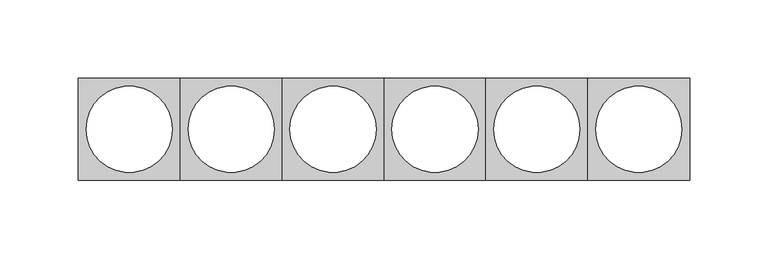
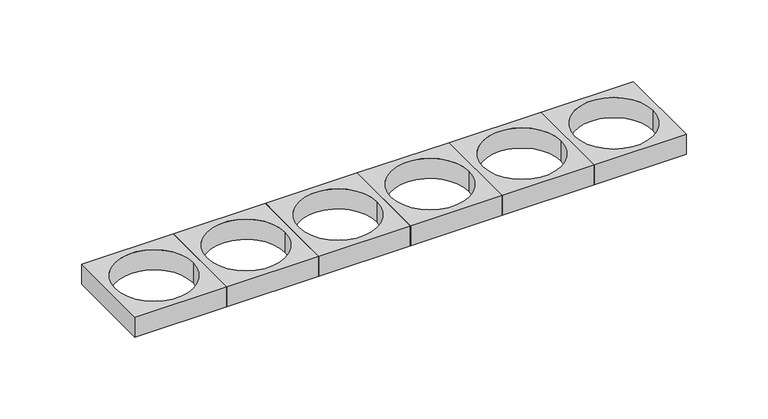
"""IFC4 building model written with IfcOpenShell, lengths in millimetres: duct fitting geometry, Mosaic Суппорт на 6 модуля : 65мм."""

from ifc_helpers import new_model, si_unit, point, frame_2d, origin, origin_with_axes, origin_2d, place, context, project, spatial, polyline, circle_curve, trimmed, segment, composite_curve, outline, extrude, source, transform, mapped, element, save


def duct_fitting_51a7aed5(model_context):
    return source(origin(), model_context, "Body", "SweptSolid", [
        extrude(outline(polyline([(357.5, 32.5), (357.5, -32.5), (292.5, -32.5), (292.5, 32.5), (357.5, 32.5)]), holes=[composite_curve([segment(trimmed(circle_curve(frame_2d((325.0, 0.0)), 27.5), [point((297.5, 0.0))], [point((352.5, 0.0))], True, "CARTESIAN"), True, "CONTINUOUS"), segment(trimmed(circle_curve(frame_2d((325.0, 0.0)), 27.5), [point((352.5, 0.0))], [point((297.5, 0.0))], True, "CARTESIAN"), True, "CONTINUOUS")], self_intersect=False)]), origin_with_axes(), (0.0, 0.0, 1.0), 15.0),
        extrude(outline(polyline([(292.5, 32.5), (292.5, -32.5), (227.5, -32.5), (227.5, 32.5), (292.5, 32.5)]), holes=[composite_curve([segment(trimmed(circle_curve(frame_2d((260.0, 0.0)), 27.5), [point((232.5, 0.0))], [point((287.5, 0.0))], True, "CARTESIAN"), True, "CONTINUOUS"), segment(trimmed(circle_curve(frame_2d((260.0, 0.0)), 27.5), [point((287.5, 0.0))], [point((232.5, 0.0))], True, "CARTESIAN"), True, "CONTINUOUS")], self_intersect=False)]), origin_with_axes(), (0.0, 0.0, 1.0), 15.0),
        extrude(outline(polyline([(227.5, 32.5), (227.5, -32.5), (162.5, -32.5), (162.5, 32.5), (227.5, 32.5)]), holes=[composite_curve([segment(trimmed(circle_curve(frame_2d((195.0, 0.0)), 27.5), [point((167.5, 0.0))], [point((222.5, 0.0))], True, "CARTESIAN"), True, "CONTINUOUS"), segment(trimmed(circle_curve(frame_2d((195.0, 0.0)), 27.5), [point((222.5, 0.0))], [point((167.5, 0.0))], True, "CARTESIAN"), True, "CONTINUOUS")], self_intersect=False)]), origin_with_axes(), (0.0, 0.0, 1.0), 15.0),
        extrude(outline(polyline([(162.5, 32.5), (162.5, -32.5), (97.5, -32.5), (97.5, 32.5), (162.5, 32.5)]), holes=[composite_curve([segment(trimmed(circle_curve(frame_2d((130.0, 0.0)), 27.5), [point((102.5, 0.0))], [point((157.5, 0.0))], True, "CARTESIAN"), True, "CONTINUOUS"), segment(trimmed(circle_curve(frame_2d((130.0, 0.0)), 27.5), [point((157.5, 0.0))], [point((102.5, 0.0))], True, "CARTESIAN"), True, "CONTINUOUS")], self_intersect=False)]), origin_with_axes(), (0.0, 0.0, 1.0), 15.0),
        extrude(outline(polyline([(97.5, 32.5), (97.5, -32.5), (32.5, -32.5), (32.5, 32.5), (97.5, 32.5)]), holes=[composite_curve([segment(trimmed(circle_curve(frame_2d((65.0, 0.0)), 27.5), [point((37.5, 0.0))], [point((92.5, 0.0))], True, "CARTESIAN"), True, "CONTINUOUS"), segment(trimmed(circle_curve(frame_2d((65.0, 0.0)), 27.5), [point((92.5, 0.0))], [point((37.5, 0.0))], True, "CARTESIAN"), True, "CONTINUOUS")], self_intersect=False)]), origin_with_axes(), (0.0, 0.0, 1.0), 15.0),
        extrude(outline(polyline([(32.5, 32.5), (32.5, -32.5), (-32.5, -32.5), (-32.5, 32.5), (32.5, 32.5)]), holes=[composite_curve([segment(trimmed(circle_curve(origin_2d(), 27.5), [point((-27.5, 0.0))], [point((27.5, 0.0))], True, "CARTESIAN"), True, "CONTINUOUS"), segment(trimmed(circle_curve(origin_2d(), 27.5), [point((27.5, 0.0))], [point((-27.5, 0.0))], True, "CARTESIAN"), True, "CONTINUOUS")], self_intersect=False)]), origin_with_axes(), (0.0, 0.0, 1.0), 15.0),
    ])


if __name__ == "__main__":
    model = new_model("IFC4")
    model_context = context("Model", 3, world=origin())
    ifc_project = project(units=[si_unit("LENGTHUNIT", "METRE", prefix="MILLI")], contexts=[model_context])
    site = spatial("IfcSite", under=ifc_project)
    building = spatial("IfcBuilding", under=site)
    placement = place(None, origin())
    duct_fitting_shape = duct_fitting_51a7aed5(model_context)
    element("IfcDuctFitting", 1, ObjectType="Mosaic Суппорт на 6 модуля : 65мм", at=placement, inside=building, context=model_context, shape_type="MappedRepresentation", body=[
        mapped(duct_fitting_shape, transform((0.0, 0.0, 0.0), x_axis=(1.0, 0.0, 0.0), y_axis=(0.0, 1.0, 0.0), z_axis=(0.0, 0.0, 1.0))),
    ])
    save(model, "model.ifc")
